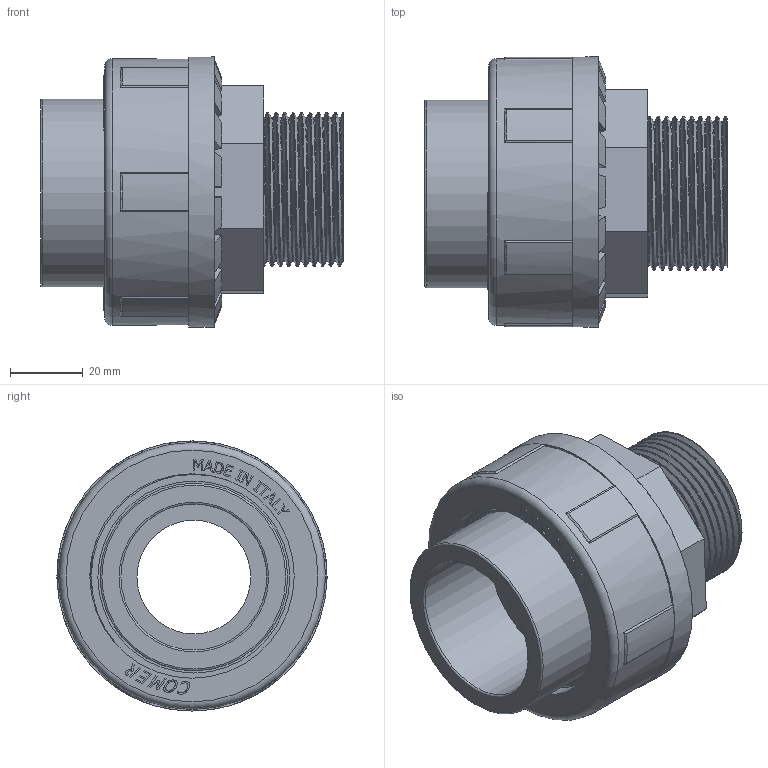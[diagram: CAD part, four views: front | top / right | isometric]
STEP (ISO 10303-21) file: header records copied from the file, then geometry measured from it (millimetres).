
FILE_DESCRIPTION(/* description */ (''),/* implementation_level */ '2;1');
FILE_NAME(/* name */ 'C:\ex desktop\US82\US82040E\US82040E.stp',/* time_stamp */ '2019-07-16T09:19:39+02:00',/* author */ ('e.sacchi'),/* organization */ (''),/* preprocessor_version */ 'ST-DEVELOPER v16.13',/* originating_system */ 'Autodesk Inventor 2018',/* authorisation */ '');
FILE_SCHEMA (('AUTOMOTIVE_DESIGN { 1 0 10303 214 3 1 1 }'));
Length unit declared in the file: millimetre
Products named in the file (5): Assieme1; UB800400; UE830400; NU830400; guarnizione
Assembly tree (4 placements, depth 2):
  Assieme1
    UB800400
    UE830400
    NU830400
    guarnizione
Bounding box: 83.01 x 74 x 74 mm (x, y, z)
Volume: 140607.7 mm3; surface area: 79578.2 mm2
Topology: 7 solids, 7 shells, 398 faces, 998 edges, 659 vertices
Faces by surface type: plane 251, bspline 63, cylinder 38, cone 36, torus 10
Full cylindrical faces by diameter (mm): 31.15 x1, 34 x1, 38.25 x1, 39.386 x2, 40 x1, 51.25 x1, 51.4 x1, 52.6 x1, 56 x1, 56.236 x2, 56.24 x1, 59.61 x2, 73 x1, 74 x1
Entity records: 27413 total; most frequent: CARTESIAN_POINT 17802, ORIENTED_EDGE 1950, DIRECTION 1653, EDGE_CURVE 975, LINE 667, VECTOR 667, VERTEX_POINT 656, AXIS2_PLACEMENT_3D 493
